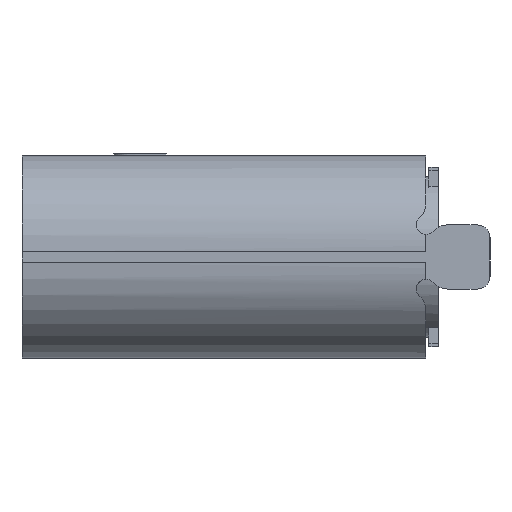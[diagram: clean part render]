
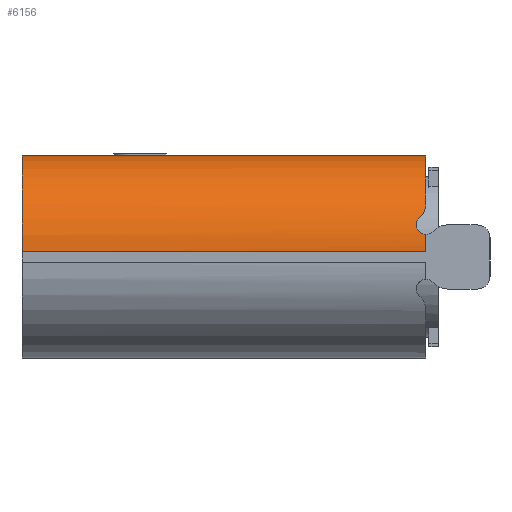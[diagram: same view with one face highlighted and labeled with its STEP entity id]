
A CAD part, left-side view. The second image highlights one B-rep face of the part: STEP entity #6156.
In plain terms, the highlighted cylindrical face has radius 1.5 mm (diameter 3 mm), a partial arc.
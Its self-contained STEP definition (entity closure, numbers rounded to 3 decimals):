
#12 = CARTESIAN_POINT ( 'NONE',  ( 1154.294, 288.653, -0.92 ) ) ;
#200 = DIRECTION ( 'NONE',  ( 0., 0., 1. ) ) ;
#388 = AXIS2_PLACEMENT_3D ( 'NONE', #12473, #9764, #17267 ) ;
#583 = CARTESIAN_POINT ( 'NONE',  ( 1152.794, 288.653, -2.42 ) ) ;
#752 = DIRECTION ( 'NONE',  ( 0., 0., -1. ) ) ;
#876 = VERTEX_POINT ( 'NONE', #14695 ) ;
#1205 = CARTESIAN_POINT ( 'NONE',  ( 1152.818, 275.253, -2.15 ) ) ;
#1796 = CARTESIAN_POINT ( 'NONE',  ( 1152.889, 275.359, -1.894 ) ) ;
#1927 = CARTESIAN_POINT ( 'NONE',  ( 1154.294, 275.253, -2.42 ) ) ;
#2198 = CARTESIAN_POINT ( 'NONE',  ( 1154.294, 275.253, -0.92 ) ) ;
#2378 = CYLINDRICAL_SURFACE ( 'NONE', #4901, 1.5 ) ;
#2438 = CARTESIAN_POINT ( 'NONE',  ( 1154.294, 281.553, -2.42 ) ) ;
#2550 = CARTESIAN_POINT ( 'NONE',  ( 1152.998, 275.253, -1.665 ) ) ;
#2648 = CARTESIAN_POINT ( 'NONE',  ( 1152.818, 275.315, -2.15 ) ) ;
#2869 = VERTEX_POINT ( 'NONE', #3561 ) ;
#2873 = CARTESIAN_POINT ( 'NONE',  ( 1152.794, 281.553, -2.42 ) ) ;
#3013 = VERTEX_POINT ( 'NONE', #4492 ) ;
#3181 = EDGE_CURVE ( 'NONE', #3013, #876, #11239, .T. ) ;
#3331 = CARTESIAN_POINT ( 'NONE',  ( 1152.868, 275.396, -1.954 ) ) ;
#3561 = CARTESIAN_POINT ( 'NONE',  ( 1154.294, 281.553, -0.92 ) ) ;
#3572 = EDGE_CURVE ( 'NONE', #2869, #8674, #4968, .T. ) ;
#3651 = DIRECTION ( 'NONE',  ( 0., -1., 0. ) ) ;
#3802 = CARTESIAN_POINT ( 'NONE',  ( 1152.855, 275.403, -1.997 ) ) ;
#3947 = B_SPLINE_CURVE_WITH_KNOTS ( 'NONE', 3,
 ( #5419, #12843, #8689, #9846, #11394, #2550 ),
 .UNSPECIFIED., .F., .F.,
 ( 4, 2, 4 ),
 ( 0., 0.5, 1. ),
 .UNSPECIFIED. ) ;
#4134 = ORIENTED_EDGE ( 'NONE', *, *, #7509, .F. ) ;
#4492 = CARTESIAN_POINT ( 'NONE',  ( 1152.891, 275.353, -1.888 ) ) ;
#4586 = EDGE_CURVE ( 'NONE', #9648, #14680, #10697, .T. ) ;
#4767 = ORIENTED_EDGE ( 'NONE', *, *, #3572, .T. ) ;
#4901 = AXIS2_PLACEMENT_3D ( 'NONE', #15194, #8224, #752 ) ;
#4968 = CIRCLE ( 'NONE', #13277, 1.5 ) ;
#5237 = CARTESIAN_POINT ( 'NONE',  ( 1152.847, 275.401, -2.026 ) ) ;
#5419 = CARTESIAN_POINT ( 'NONE',  ( 1152.891, 275.353, -1.888 ) ) ;
#6145 = DIRECTION ( 'NONE',  ( 0., -1., 0. ) ) ;
#6156 = ADVANCED_FACE ( 'NONE', ( #18137 ), #2378, .T. ) ;
#6228 = CARTESIAN_POINT ( 'NONE',  ( 1152.872, 275.392, -1.943 ) ) ;
#7509 = EDGE_CURVE ( 'NONE', #876, #14510, #8653, .T. ) ;
#7655 = CARTESIAN_POINT ( 'NONE',  ( 1152.88, 275.38, -1.92 ) ) ;
#8224 = DIRECTION ( 'NONE',  ( 0., -1., 0. ) ) ;
#8285 = DIRECTION ( 'NONE',  ( 0., -1., 0. ) ) ;
#8653 = CIRCLE ( 'NONE', #388, 1.5 ) ;
#8674 = VERTEX_POINT ( 'NONE', #2873 ) ;
#8689 = CARTESIAN_POINT ( 'NONE',  ( 1152.918, 275.294, -1.822 ) ) ;
#9418 = LINE ( 'NONE', #583, #13879 ) ;
#9648 = VERTEX_POINT ( 'NONE', #2198 ) ;
#9764 = DIRECTION ( 'NONE',  ( 0., -1., 0. ) ) ;
#9846 = CARTESIAN_POINT ( 'NONE',  ( 1152.954, 275.261, -1.745 ) ) ;
#10240 = ORIENTED_EDGE ( 'NONE', *, *, #15859, .T. ) ;
#10383 = LINE ( 'NONE', #12, #17846 ) ;
#10670 = DIRECTION ( 'NONE',  ( 0., -1., 0. ) ) ;
#10697 = CIRCLE ( 'NONE', #18663, 1.5 ) ;
#11116 = CARTESIAN_POINT ( 'NONE',  ( 1152.86, 275.403, -1.981 ) ) ;
#11239 = B_SPLINE_CURVE_WITH_KNOTS ( 'NONE', 3,
 ( #14990, #1796, #16507, #7655, #13544, #6228, #3331, #11116, #3802, #11310, #5237, #18308, #15833, #14302, #2648, #1205 ),
 .UNSPECIFIED., .F., .F.,
 ( 4, 2, 2, 2, 2, 2, 2, 4 ),
 ( 0., 0.125, 0.188, 0.25, 0.375, 0.437, 0.5, 1. ),
 .UNSPECIFIED. ) ;
#11287 = DIRECTION ( 'NONE',  ( 0., 0., -1. ) ) ;
#11310 = CARTESIAN_POINT ( 'NONE',  ( 1152.849, 275.402, -2.019 ) ) ;
#11394 = CARTESIAN_POINT ( 'NONE',  ( 1152.974, 275.253, -1.705 ) ) ;
#12473 = CARTESIAN_POINT ( 'NONE',  ( 1154.294, 275.253, -2.42 ) ) ;
#12741 = ORIENTED_EDGE ( 'NONE', *, *, #3181, .F. ) ;
#12843 = CARTESIAN_POINT ( 'NONE',  ( 1152.902, 275.32, -1.859 ) ) ;
#13277 = AXIS2_PLACEMENT_3D ( 'NONE', #2438, #8285, #11287 ) ;
#13544 = CARTESIAN_POINT ( 'NONE',  ( 1152.877, 275.384, -1.927 ) ) ;
#13879 = VECTOR ( 'NONE', #3651, 1000. ) ;
#14302 = CARTESIAN_POINT ( 'NONE',  ( 1152.826, 275.373, -2.108 ) ) ;
#14510 = VERTEX_POINT ( 'NONE', #17793 ) ;
#14680 = VERTEX_POINT ( 'NONE', #15873 ) ;
#14695 = CARTESIAN_POINT ( 'NONE',  ( 1152.818, 275.253, -2.15 ) ) ;
#14990 = CARTESIAN_POINT ( 'NONE',  ( 1152.891, 275.353, -1.888 ) ) ;
#15194 = CARTESIAN_POINT ( 'NONE',  ( 1154.294, 288.653, -2.42 ) ) ;
#15290 = EDGE_CURVE ( 'NONE', #3013, #14680, #3947, .T. ) ;
#15833 = CARTESIAN_POINT ( 'NONE',  ( 1152.842, 275.396, -2.044 ) ) ;
#15859 = EDGE_CURVE ( 'NONE', #8674, #14510, #9418, .T. ) ;
#15873 = CARTESIAN_POINT ( 'NONE',  ( 1152.998, 275.253, -1.665 ) ) ;
#16438 = ORIENTED_EDGE ( 'NONE', *, *, #4586, .F. ) ;
#16507 = CARTESIAN_POINT ( 'NONE',  ( 1152.886, 275.367, -1.902 ) ) ;
#16667 = EDGE_LOOP ( 'NONE', ( #12741, #17891, #16438, #17307, #4767, #10240, #4134 ) ) ;
#17105 = EDGE_CURVE ( 'NONE', #2869, #9648, #10383, .T. ) ;
#17267 = DIRECTION ( 'NONE',  ( 0., 0., 1. ) ) ;
#17307 = ORIENTED_EDGE ( 'NONE', *, *, #17105, .F. ) ;
#17793 = CARTESIAN_POINT ( 'NONE',  ( 1152.794, 275.253, -2.42 ) ) ;
#17846 = VECTOR ( 'NONE', #6145, 1000. ) ;
#17891 = ORIENTED_EDGE ( 'NONE', *, *, #15290, .T. ) ;
#18137 = FACE_OUTER_BOUND ( 'NONE', #16667, .T. ) ;
#18308 = CARTESIAN_POINT ( 'NONE',  ( 1152.843, 275.398, -2.039 ) ) ;
#18663 = AXIS2_PLACEMENT_3D ( 'NONE', #1927, #10670, #200 ) ;
